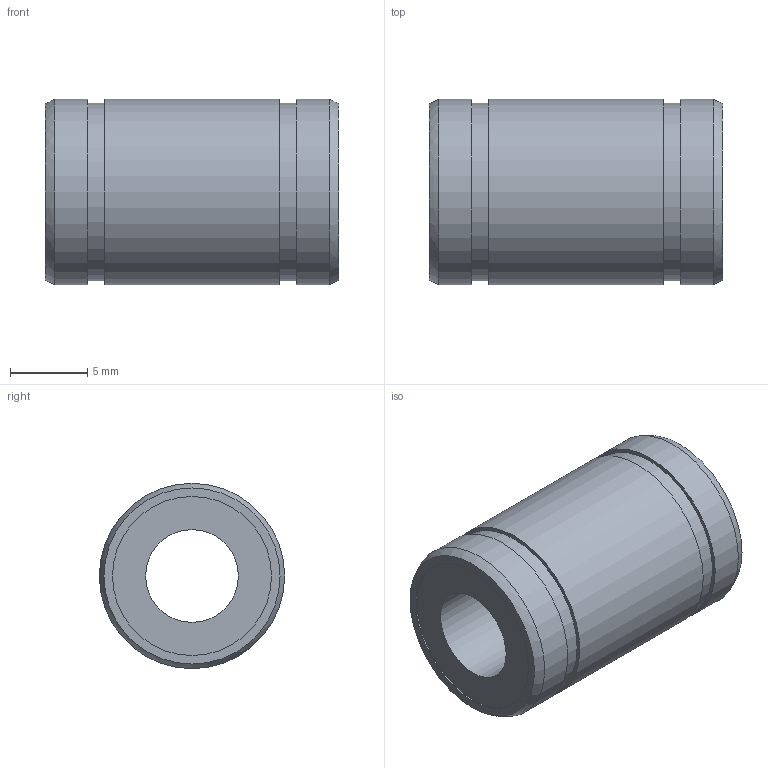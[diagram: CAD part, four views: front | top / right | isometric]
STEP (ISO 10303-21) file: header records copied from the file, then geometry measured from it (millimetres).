
FILE_DESCRIPTION((''),'2;1');
FILE_NAME('D:\製品 (図面)\カタログ用3D\リニアベアリング関連\STEP形式\L\L6.stp','2010-06-02T17:31:02',('Tsuchiya'),(''),'Autodesk Inventor 10','Autodesk Inventor 10','');
FILE_SCHEMA(('AUTOMOTIVE_DESIGN { 1 0 10303 214 1 1 1 1 }'));
Length unit declared in the file: millimetre
Products named in the file (1): L6
Bounding box: 19 x 12 x 12 mm (x, y, z)
Volume: 1573.8 mm3; surface area: 1262.1 mm2
Topology: 1 solids, 1 shells, 18 faces, 28 edges, 18 vertices
Faces by surface type: cylinder 8, plane 8, bspline 2
Full cylindrical faces by diameter (mm): 6 x1, 10.3 x2, 11.5 x2, 12 x3
Entity records: 435 total; most frequent: CARTESIAN_POINT 107, DIRECTION 70, ORIENTED_EDGE 36, EDGE_LOOP 36, AXIS2_PLACEMENT_3D 35, VERTEX_POINT 18, CIRCLE 18, EDGE_CURVE 18
